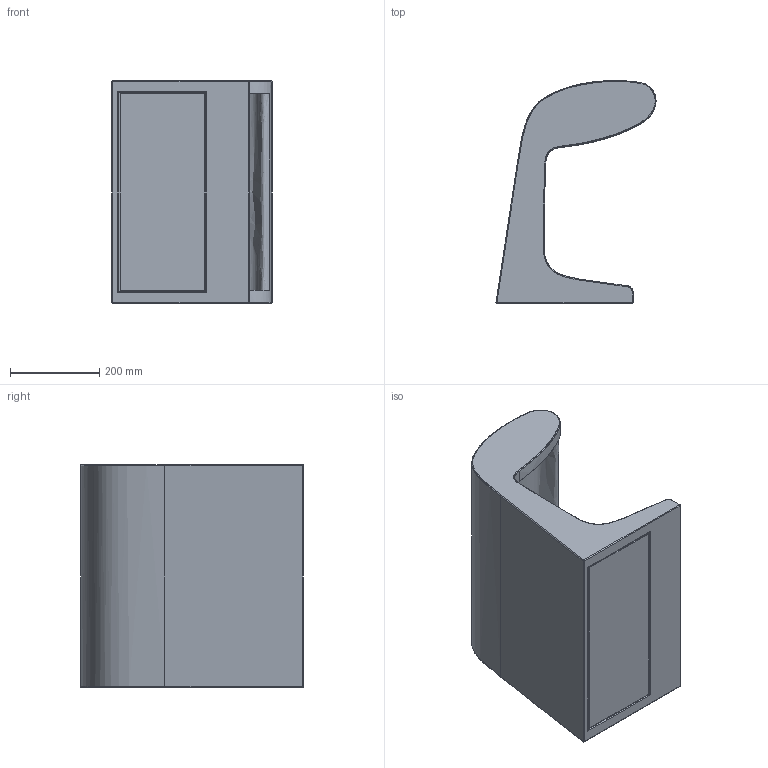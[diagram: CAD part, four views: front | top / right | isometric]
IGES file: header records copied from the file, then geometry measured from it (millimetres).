
Start section: SolidWorks IGES file using analytic representation for surfaces
Global section: file name: C:\Users\tungari.NEMOLIGHTING\Desktop\15_02\FLOOR\3D_BORNE_BETON_GRANDE\DEFEATURE_3D_BORNE_BETON_GRANDE\3D_BORNE_BETON_GRANDE.IGS; native system: SolidWorks 2016; preprocessor: SolidWorks 2016; author: tungari; date: 180219.123940; units: millimetre
Bounding box: 359.3 x 500.35 x 500 mm (x, y, z)
Surface area: 1607214 mm2 (no closed solid volume)
Topology: 0 solids, 0 shells, 92 faces, 1118 edges, 1117 vertices
Faces by surface type: bspline 56, revolution 36
